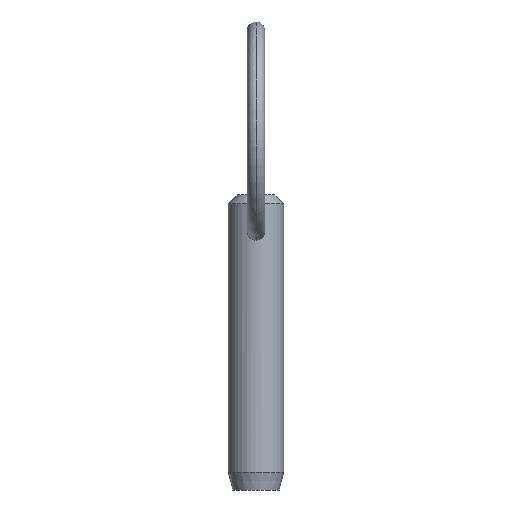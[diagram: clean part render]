
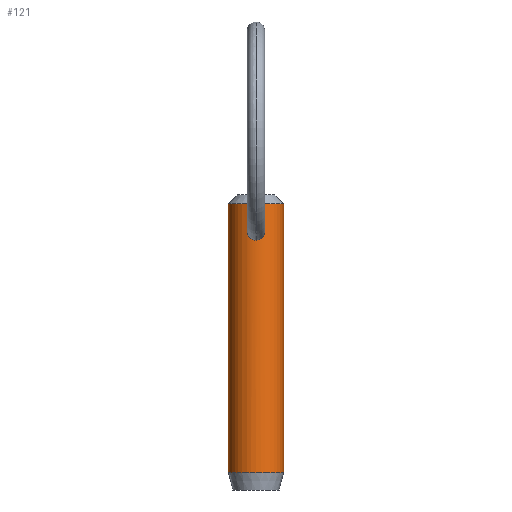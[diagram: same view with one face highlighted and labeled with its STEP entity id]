
A CAD part, front view. The second image highlights one B-rep face of the part: STEP entity #121.
In plain terms, the highlighted cylindrical face has radius 3.175 mm (diameter 6.35 mm), a partial arc.
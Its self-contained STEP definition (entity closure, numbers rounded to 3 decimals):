
#5 = DIRECTION ( 'NONE',  ( -1., 0., 0. ) ) ;
#6 = CIRCLE ( 'NONE', #198, 3.175 ) ;
#16 = CARTESIAN_POINT ( 'NONE',  ( -0.615, -3.116, 22.553 ) ) ;
#19 = CARTESIAN_POINT ( 'NONE',  ( 0.992, -3.016, 21.994 ) ) ;
#22 = DIRECTION ( 'NONE',  ( 0., 0., -1. ) ) ;
#31 = VECTOR ( 'NONE', #22, 1000. ) ;
#34 = ORIENTED_EDGE ( 'NONE', *, *, #53, .T. ) ;
#46 = DIRECTION ( 'NONE',  ( 0., 0., -1. ) ) ;
#49 = CARTESIAN_POINT ( 'NONE',  ( -0.264, -3.165, 22.744 ) ) ;
#50 = CARTESIAN_POINT ( 'NONE',  ( 0., -3.175, 20.703 ) ) ;
#53 = EDGE_CURVE ( 'NONE', #469, #400, #451, .T. ) ;
#55 = ORIENTED_EDGE ( 'NONE', *, *, #122, .T. ) ;
#58 = CARTESIAN_POINT ( 'NONE',  ( 0.628, -3.114, 20.904 ) ) ;
#61 = CARTESIAN_POINT ( 'NONE',  ( 3.175, 0., 24.88 ) ) ;
#63 = CARTESIAN_POINT ( 'NONE',  ( 0.269, -3.166, 22.75 ) ) ;
#71 = AXIS2_PLACEMENT_3D ( 'NONE', #401, #46, #125 ) ;
#80 = CARTESIAN_POINT ( 'NONE',  ( -0.508, -3.136, 22.635 ) ) ;
#85 = CARTESIAN_POINT ( 'NONE',  ( -0.133, -3.173, 22.774 ) ) ;
#99 = CARTESIAN_POINT ( 'NONE',  ( 0.884, -3.055, 22.257 ) ) ;
#109 = B_SPLINE_CURVE_WITH_KNOTS ( 'NONE', 3,
 ( #50, #123, #394, #456, #389, #153, #276, #119, #232, #313, #315, #16, #80, #416, #49, #85, #417, #421 ),
 .UNSPECIFIED., .F., .F.,
 ( 4, 2, 2, 2, 2, 2, 2, 2, 4 ),
 ( 0.006, 0.006, 0.007, 0.007, 0.008, 0.008, 0.009, 0.009, 0.009 ),
 .UNSPECIFIED. ) ;
#113 = FACE_BOUND ( 'NONE', #364, .T. ) ;
#115 = CARTESIAN_POINT ( 'NONE',  ( -3.175, 0., 20.3 ) ) ;
#118 = CARTESIAN_POINT ( 'NONE',  ( 3.175, 0., 20.3 ) ) ;
#119 = CARTESIAN_POINT ( 'NONE',  ( -0.983, -3.02, 21.459 ) ) ;
#121 = ADVANCED_FACE ( 'NONE', ( #311, #113 ), #199, .T. ) ;
#122 = EDGE_CURVE ( 'NONE', #400, #348, #406, .T. ) ;
#123 = CARTESIAN_POINT ( 'NONE',  ( -0.134, -3.175, 20.703 ) ) ;
#125 = DIRECTION ( 'NONE',  ( -1., 0., 0. ) ) ;
#128 = CARTESIAN_POINT ( 'NONE',  ( 0.268, -3.166, 20.729 ) ) ;
#134 = EDGE_LOOP ( 'NONE', ( #236, #34, #55, #332 ) ) ;
#137 = VERTEX_POINT ( 'NONE', #161 ) ;
#153 = CARTESIAN_POINT ( 'NONE',  ( -0.815, -3.07, 21.095 ) ) ;
#160 = CARTESIAN_POINT ( 'NONE',  ( 0.888, -3.049, 21.209 ) ) ;
#161 = CARTESIAN_POINT ( 'NONE',  ( 0., -3.175, 22.782 ) ) ;
#163 = CARTESIAN_POINT ( 'NONE',  ( 0., -3.175, 20.703 ) ) ;
#165 = VERTEX_POINT ( 'NONE', #358 ) ;
#179 = VERTEX_POINT ( 'NONE', #430 ) ;
#183 = EDGE_CURVE ( 'NONE', #469, #179, #225, .T. ) ;
#198 = AXIS2_PLACEMENT_3D ( 'NONE', #378, #226, #5 ) ;
#199 = CYLINDRICAL_SURFACE ( 'NONE', #71, 3.175 ) ;
#206 = DIRECTION ( 'NONE',  ( 1., 0., 0. ) ) ;
#210 = CARTESIAN_POINT ( 'NONE',  ( 0.515, -3.135, 20.83 ) ) ;
#219 = DIRECTION ( 'NONE',  ( 0., 0., -1. ) ) ;
#225 = LINE ( 'NONE', #118, #31 ) ;
#226 = DIRECTION ( 'NONE',  ( 0., 0., 1. ) ) ;
#232 = CARTESIAN_POINT ( 'NONE',  ( -1.004, -3.012, 21.595 ) ) ;
#236 = ORIENTED_EDGE ( 'NONE', *, *, #183, .F. ) ;
#237 = CARTESIAN_POINT ( 'NONE',  ( -3.175, 0., -5.92 ) ) ;
#247 = EDGE_CURVE ( 'NONE', #348, #179, #6, .T. ) ;
#249 = CARTESIAN_POINT ( 'NONE',  ( 0.51, -3.136, 22.634 ) ) ;
#270 = CARTESIAN_POINT ( 'NONE',  ( -3.175, 0., 24.88 ) ) ;
#276 = CARTESIAN_POINT ( 'NONE',  ( -0.888, -3.049, 21.209 ) ) ;
#290 = CARTESIAN_POINT ( 'NONE',  ( 0.134, -3.175, 22.782 ) ) ;
#294 = VECTOR ( 'NONE', #465, 1000. ) ;
#296 = AXIS2_PLACEMENT_3D ( 'NONE', #340, #219, #206 ) ;
#311 = FACE_OUTER_BOUND ( 'NONE', #134, .T. ) ;
#313 = CARTESIAN_POINT ( 'NONE',  ( -0.991, -3.016, 21.996 ) ) ;
#315 = CARTESIAN_POINT ( 'NONE',  ( -0.882, -3.055, 22.26 ) ) ;
#317 = CARTESIAN_POINT ( 'NONE',  ( 0., -3.175, 22.782 ) ) ;
#319 = CARTESIAN_POINT ( 'NONE',  ( 1.004, -3.012, 21.593 ) ) ;
#320 = EDGE_CURVE ( 'NONE', #165, #137, #109, .T. ) ;
#323 = CARTESIAN_POINT ( 'NONE',  ( 0.134, -3.175, 20.703 ) ) ;
#332 = ORIENTED_EDGE ( 'NONE', *, *, #247, .T. ) ;
#340 = CARTESIAN_POINT ( 'NONE',  ( 0., 0., 24.88 ) ) ;
#348 = VERTEX_POINT ( 'NONE', #237 ) ;
#357 = ORIENTED_EDGE ( 'NONE', *, *, #457, .T. ) ;
#358 = CARTESIAN_POINT ( 'NONE',  ( 0., -3.175, 20.703 ) ) ;
#360 = CARTESIAN_POINT ( 'NONE',  ( 0.617, -3.116, 22.551 ) ) ;
#364 = EDGE_LOOP ( 'NONE', ( #357, #438 ) ) ;
#378 = CARTESIAN_POINT ( 'NONE',  ( 0., 0., -5.92 ) ) ;
#389 = CARTESIAN_POINT ( 'NONE',  ( -0.629, -3.114, 20.905 ) ) ;
#394 = CARTESIAN_POINT ( 'NONE',  ( -0.269, -3.166, 20.729 ) ) ;
#398 = CARTESIAN_POINT ( 'NONE',  ( 0.982, -3.02, 21.458 ) ) ;
#400 = VERTEX_POINT ( 'NONE', #270 ) ;
#401 = CARTESIAN_POINT ( 'NONE',  ( 0., 0., 20.3 ) ) ;
#406 = LINE ( 'NONE', #115, #294 ) ;
#416 = CARTESIAN_POINT ( 'NONE',  ( -0.328, -3.159, 22.721 ) ) ;
#417 = CARTESIAN_POINT ( 'NONE',  ( -0.067, -3.175, 22.782 ) ) ;
#421 = CARTESIAN_POINT ( 'NONE',  ( 0., -3.175, 22.782 ) ) ;
#430 = CARTESIAN_POINT ( 'NONE',  ( 3.175, 0., -5.92 ) ) ;
#436 = B_SPLINE_CURVE_WITH_KNOTS ( 'NONE', 3,
 ( #317, #290, #63, #249, #360, #99, #19, #319, #398, #160, #466, #58, #210, #128, #323, #163 ),
 .UNSPECIFIED., .F., .F.,
 ( 4, 2, 2, 2, 2, 2, 2, 4 ),
 ( 0.003, 0.003, 0.004, 0.004, 0.005, 0.005, 0.006, 0.006 ),
 .UNSPECIFIED. ) ;
#438 = ORIENTED_EDGE ( 'NONE', *, *, #320, .T. ) ;
#451 = CIRCLE ( 'NONE', #296, 3.175 ) ;
#456 = CARTESIAN_POINT ( 'NONE',  ( -0.516, -3.135, 20.831 ) ) ;
#457 = EDGE_CURVE ( 'NONE', #137, #165, #436, .T. ) ;
#465 = DIRECTION ( 'NONE',  ( 0., 0., -1. ) ) ;
#466 = CARTESIAN_POINT ( 'NONE',  ( 0.815, -3.07, 21.095 ) ) ;
#469 = VERTEX_POINT ( 'NONE', #61 ) ;
